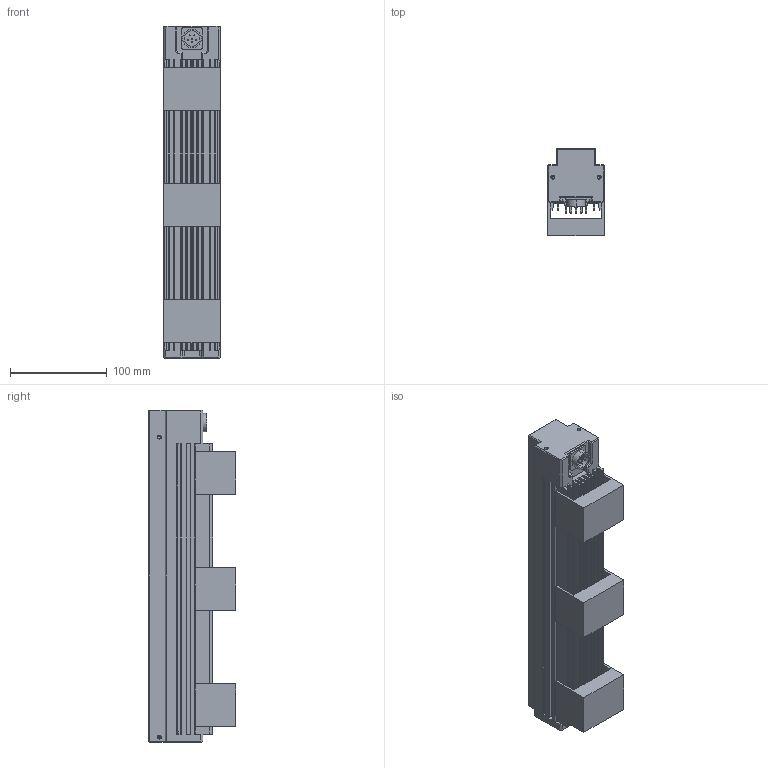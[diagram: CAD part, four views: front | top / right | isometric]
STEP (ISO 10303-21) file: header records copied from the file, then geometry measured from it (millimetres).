
FILE_DESCRIPTION((''),'2;1');
FILE_NAME('MV-LTHS-300-W','2019-09-19T',('win7'),(''),'PRO/ENGINEER BY PARAMETRIC TECHNOLOGY CORPORATION, 2010100','PRO/ENGINEER BY PARAMETRIC TECHNOLOGY CORPORATION, 2010100','');
FILE_SCHEMA(('CONFIG_CONTROL_DESIGN'));
Length unit declared in the file: millimetre
Products named in the file (1): MV-LTHS-300-W
Bounding box: 58 x 90.1 x 343 mm (x, y, z)
Volume: 1136656.3 mm3; surface area: 185465.7 mm2
Topology: 1 solids, 9 shells, 338 faces, 910 edges, 574 vertices
Faces by surface type: plane 224, cylinder 88, cone 26
Entity records: 10376 total; most frequent: CARTESIAN_POINT 1828, DIRECTION 1764, ORIENTED_EDGE 1736, EDGE_CURVE 890, VECTOR 682, LINE 682, VERTEX_POINT 574, AXIS2_PLACEMENT_3D 541
